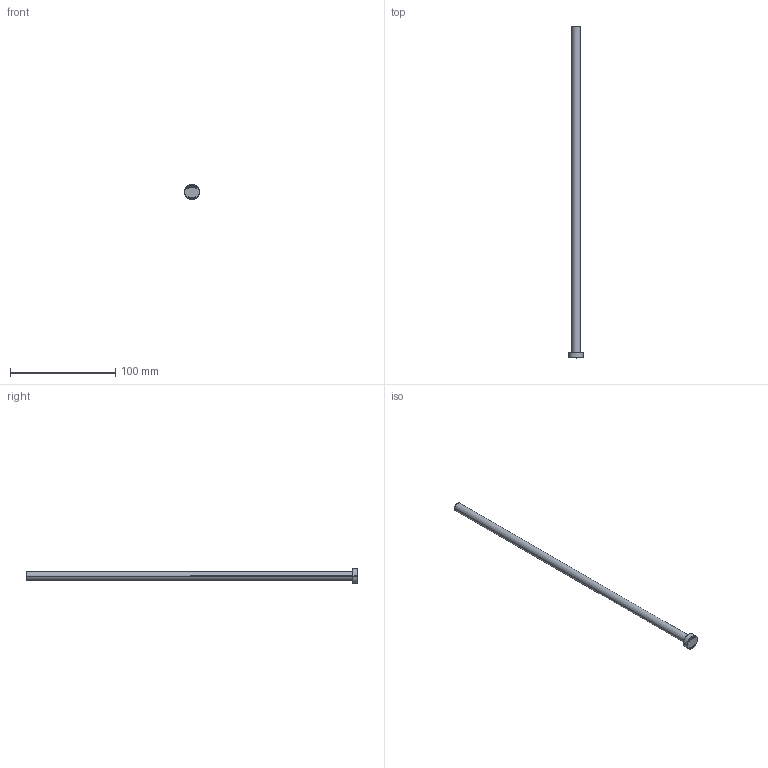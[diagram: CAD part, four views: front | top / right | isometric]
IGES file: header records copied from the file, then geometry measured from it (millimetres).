
Start section: SolidWorks IGES file using analytic representation for surfaces
Global section: file name: C:\Users\User\Downloads\Matripeça 31-08 tar\PB - PINO EXTRATOR TIPO _B_ (CATÁLOGO)\PB08,0\PB08,0315.IGS; native system: SolidWorks 2024; preprocessor: SolidWorks 2024; author: User; date: 260901.145831; units: millimetre
Bounding box: 14 x 315 x 14 mm (x, y, z)
Surface area: 8324.7 mm2 (no closed solid volume)
Topology: 0 solids, 0 shells, 412 faces, 4060 edges, 4060 vertices
Faces by surface type: bspline 398, revolution 14
